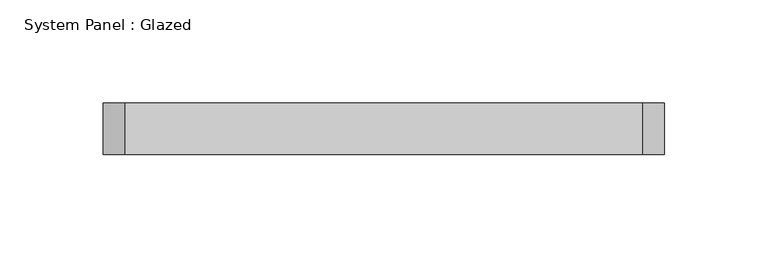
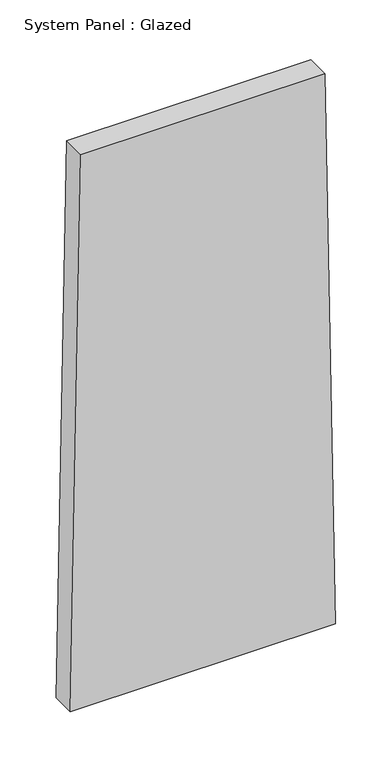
"""IFC4 building model written with IfcOpenShell, lengths in millimetres: plate geometry, System Panel : Glazed."""

import ifcopenshell
import ifcopenshell.guid

model = None  # the IFC model being written
_history = None  # IfcOwnerHistory: only IFC2X3 demands one
_inside = {}  # id of a spatial element -> (the spatial element, [elements in it])
_under = {}  # id of a project, library or spatial element -> (it, [spatial elements below it])
_declared = {}  # id of a project -> (the project, [libraries it declares])
_typed = {}  # id of a type object -> (the type object, [elements of that type])
_made_of = {}  # id of a material, layer set ... -> (it, [elements and type objects made of it])


def new_model(schema):
    """Start an empty IFC model of exactly this schema.

    Asked for "IFC4X3", IfcOpenShell would pick the latest addendum, in which some entities
    have other attributes; the version numbers below select the first issue.
    IFC2X3 requires an IfcOwnerHistory on every rooted entity: one is made here for all.
    """
    global model, _history
    if schema == "IFC4X3":
        model = ifcopenshell.file(schema_version=(4, 3, 0, 0))
    else:
        model = ifcopenshell.file(schema=schema)
    _inside.clear()
    _under.clear()
    _declared.clear()
    _typed.clear()
    _made_of.clear()
    _history = None
    if model.schema == "IFC2X3":
        org = make("IfcOrganization", Name="unknown")
        user = make(
            "IfcPersonAndOrganization",
            ThePerson=make("IfcPerson", FamilyName="unknown"),
            TheOrganization=org,
        )
        app = make(
            "IfcApplication",
            ApplicationDeveloper=org,
            Version="unknown",
            ApplicationFullName="unknown",
            ApplicationIdentifier="unknown",
        )
        _history = make(
            "IfcOwnerHistory",
            OwningUser=user,
            OwningApplication=app,
            ChangeAction="ADDED",
            CreationDate=0,
        )
    return model


def make(cls, **values):
    """One entity of the class cls with the attributes given. An attribute that is None is left unset."""
    return model.create_entity(
        cls, **{name: value for name, value in values.items() if value is not None}
    )


def rooted(cls, **values):
    """An entity with a GlobalId (a new one), such as an element, a storey or a relation."""
    return make(cls, GlobalId=ifcopenshell.guid.new(), OwnerHistory=_history, **values)


def si_unit(unit_type, name, prefix=None):
    """IfcSIUnit, for example si_unit("LENGTHUNIT", "METRE", prefix="MILLI")."""
    return make("IfcSIUnit", UnitType=unit_type, Prefix=prefix, Name=name)


def assignment(units):
    """IfcUnitAssignment: the units of a project."""
    return None if units is None else make("IfcUnitAssignment", Units=units)


def point(xyz):
    """IfcCartesianPoint."""
    return None if xyz is None else make("IfcCartesianPoint", Coordinates=xyz)


def direction(xyz):
    """IfcDirection."""
    return None if xyz is None else make("IfcDirection", DirectionRatios=xyz)


def frame(location, z_axis=None, x_axis=None):
    """IfcAxis2Placement3D, a coordinate frame: its origin and axes. An axis left out is left unset."""
    return make(
        "IfcAxis2Placement3D",
        Location=point(location),
        Axis=direction(z_axis),
        RefDirection=direction(x_axis),
    )


def origin():
    """The frame at (0, 0, 0) with its axes left unset."""
    return frame((0.0, 0.0, 0.0))


def place(relative_to, where):
    """IfcLocalPlacement: puts the frame where relative to a parent placement (None: the world)."""
    return make(
        "IfcLocalPlacement", PlacementRelTo=relative_to, RelativePlacement=where
    )


def context(
    kind, dimensions, precision=None, world=None, true_north=None, identifier=None
):
    """IfcGeometricRepresentationContext, for example the 3D "Model" context."""
    return make(
        "IfcGeometricRepresentationContext",
        ContextIdentifier=identifier,
        ContextType=kind,
        CoordinateSpaceDimension=dimensions,
        Precision=precision,
        WorldCoordinateSystem=world,
        TrueNorth=true_north,
    )


def project(units=None, contexts=None):
    """IfcProject with its units and contexts."""
    return rooted(
        "IfcProject",
        Name="project",
        RepresentationContexts=contexts,
        UnitsInContext=assignment(units),
    )


def spatial(cls, under=None, at=None, **own):
    """A site, building, storey or space (cls), placed at a placement, below another one or the project."""
    s = rooted(cls, ObjectPlacement=at, **own)
    if under is not None:
        _under.setdefault(under.id(), (under, []))[1].append(s)
    return s


def polyline(points):
    """IfcPolyline through the points."""
    return make("IfcPolyline", Points=[point(p) for p in points])


def outline(outer, holes=None, kind="AREA"):
    """IfcArbitraryClosedProfileDef: a profile drawn as a closed curve; with holes, ...WithVoids."""
    if holes is None:
        return make("IfcArbitraryClosedProfileDef", ProfileType=kind, OuterCurve=outer)
    return make(
        "IfcArbitraryProfileDefWithVoids",
        ProfileType=kind,
        OuterCurve=outer,
        InnerCurves=holes,
    )


def extrude(swept, where, along, depth):
    """IfcExtrudedAreaSolid: the profile swept, set in the frame where, extruded along a direction by depth."""
    return make(
        "IfcExtrudedAreaSolid",
        SweptArea=swept,
        Position=where,
        ExtrudedDirection=direction(along),
        Depth=depth,
    )


def shape(context_of_items, identifier, shape_type, items):
    """IfcShapeRepresentation: the items that make up one representation, for example the "Body"."""
    return make(
        "IfcShapeRepresentation",
        ContextOfItems=context_of_items,
        RepresentationIdentifier=identifier,
        RepresentationType=shape_type,
        Items=items,
    )


def source(mapping_origin, context_of_items, identifier, shape_type, items):
    """IfcRepresentationMap: a shape defined once, which mapped items show again and again."""
    return make(
        "IfcRepresentationMap",
        MappingOrigin=mapping_origin,
        MappedRepresentation=shape(context_of_items, identifier, shape_type, items),
    )


def transform(
    local_origin,
    x_axis=None,
    y_axis=None,
    z_axis=None,
    scale=None,
    scale2=None,
    scale3=None,
    uniform=True,
):
    """IfcCartesianTransformationOperator3D, or its non-uniform kind. x_axis, y_axis, z_axis: its Axis1, 2, 3."""
    if uniform:
        return make(
            "IfcCartesianTransformationOperator3D",
            Axis1=direction(x_axis),
            Axis2=direction(y_axis),
            LocalOrigin=point(local_origin),
            Scale=scale,
            Axis3=direction(z_axis),
        )
    return make(
        "IfcCartesianTransformationOperator3DnonUniform",
        Axis1=direction(x_axis),
        Axis2=direction(y_axis),
        LocalOrigin=point(local_origin),
        Scale=scale,
        Axis3=direction(z_axis),
        Scale2=scale2,
        Scale3=scale3,
    )


def mapped(mapping_source, mapping_target):
    """IfcMappedItem: shows the shape of a source again, moved by a transform."""
    return make(
        "IfcMappedItem", MappingSource=mapping_source, MappingTarget=mapping_target
    )


def made_of(thing, what):
    """Note that an element or type object is made of a material, layer set ...; save() writes the relation."""
    if what is not None:
        _made_of.setdefault(what.id(), (what, []))[1].append(thing)
    return thing


def element(
    cls,
    number,
    at=None,
    inside=None,
    cuts=None,
    type_object=None,
    material=None,
    context=None,
    identifier="Body",
    shape_type=None,
    held_by="IfcProductDefinitionShape",
    body=None,
    shapes=None,
    **own,
):
    """One element of the class cls, such as IfcWall. Its Tag is "e" and its number.

    at: its placement. inside: the storey or other place that contains it. cuts: it is an
    opening in that element (IfcRelVoidsElement). A single representation is given by context,
    identifier, shape_type and body (its items); several are given by shapes. held_by: the class
    of the entity that holds the representations. save() writes the other relations.
    """
    e = rooted(cls, Tag="e%d" % number, ObjectPlacement=at, **own)
    if body is not None:
        shapes = [shape(context, identifier, shape_type, body)]
    if shapes is not None:
        e.Representation = make(held_by, Representations=shapes)
    if inside is not None:
        _inside.setdefault(inside.id(), (inside, []))[1].append(e)
    if cuts is not None:
        rooted(
            "IfcRelVoidsElement", RelatingBuildingElement=cuts, RelatedOpeningElement=e
        )
    if type_object is not None:
        _typed.setdefault(type_object.id(), (type_object, []))[1].append(e)
    return made_of(e, material)


def aggregate(whole, parts):
    """IfcRelAggregates: a whole, such as a stair, and the parts it consists of."""
    return rooted("IfcRelAggregates", RelatingObject=whole, RelatedObjects=parts)


def save(model, path):
    """Write the relations noted so far, then the file.

    IfcRelAggregates (storeys below a building ...), IfcRelContainedInSpatialStructure (elements
    in a storey), IfcRelDefinesByType, IfcRelAssociatesMaterial and IfcRelDeclares: one each for
    every whole, place, type object, material and project.
    """
    for whole, parts in _under.values():
        aggregate(whole, parts)
    for where, things in _inside.values():
        rooted(
            "IfcRelContainedInSpatialStructure",
            RelatedElements=things,
            RelatingStructure=where,
        )
    for kind, things in _typed.values():
        rooted("IfcRelDefinesByType", RelatedObjects=things, RelatingType=kind)
    for what, things in _made_of.values():
        rooted("IfcRelAssociatesMaterial", RelatedObjects=things, RelatingMaterial=what)
    for by, libraries in _declared.values():
        rooted("IfcRelDeclares", RelatingContext=by, RelatedDefinitions=libraries)
    model.write(path)


def system_panel_glazed_dc89cc4e(model_context):
    return source(origin(), model_context, "Body", "SweptSolid", [
        extrude(outline(polyline([(0.0, -136.1155915), (0.0, 136.1155915), (599.902467, 125.2975482), (599.902467, -125.2975482), (0.0, -136.1155915)])), frame((0.0, 24.5, 0.0), z_axis=(0.0, 1.0, 0.0), x_axis=(0.0, 0.0, 1.0)), (0.0, 0.0, 1.0), 25.0),
    ])


if __name__ == "__main__":
    model = new_model("IFC4")
    model_context = context("Model", 3, world=origin())
    ifc_project = project(units=[si_unit("LENGTHUNIT", "METRE", prefix="MILLI")], contexts=[model_context])
    site = spatial("IfcSite", under=ifc_project)
    building = spatial("IfcBuilding", under=site)
    placement = place(None, origin())
    system_panel_glazed_shape = system_panel_glazed_dc89cc4e(model_context)
    element("IfcPlate", 1, ObjectType="System Panel : Glazed", at=placement, inside=building, context=model_context, shape_type="MappedRepresentation", body=[
        mapped(system_panel_glazed_shape, transform((0.0, 0.0, 0.0), x_axis=(1.0, 0.0, 0.0), y_axis=(0.0, 1.0, 0.0), z_axis=(0.0, 0.0, 1.0))),
    ])
    save(model, "model.ifc")
